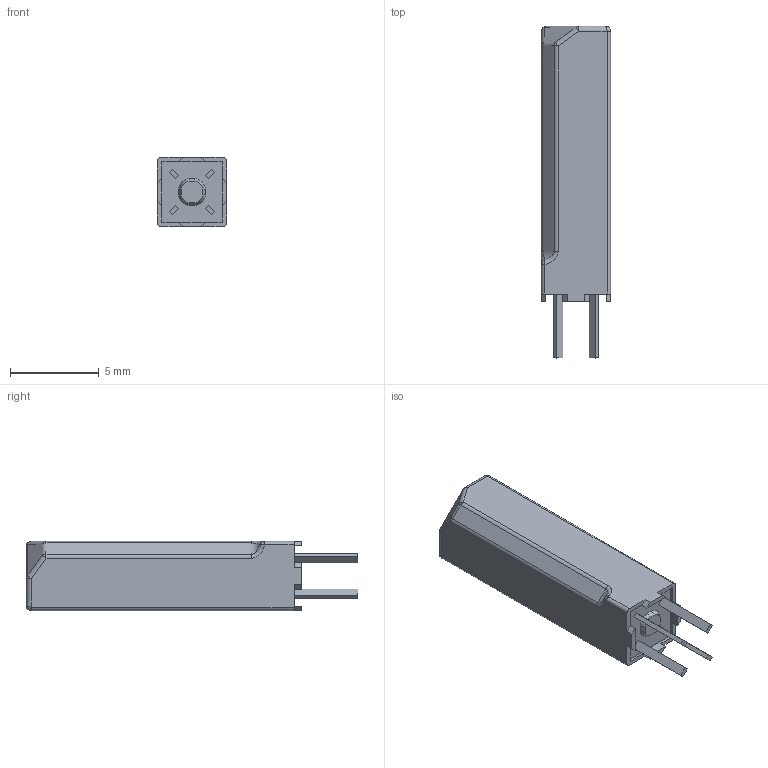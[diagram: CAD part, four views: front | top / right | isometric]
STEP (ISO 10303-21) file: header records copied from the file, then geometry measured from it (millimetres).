
FILE_DESCRIPTION (( 'STEP AP214' ), '1' );
FILE_NAME ('120-1-A-5-1.STEP', '2018-06-11T10:24:15', ( 'admin' ), ( '' ), 'SwSTEP 2.0', 'SolidWorks 2017', '' );
FILE_SCHEMA (( 'AUTOMOTIVE_DESIGN' ));
Length unit declared in the file: millimetre
Products named in the file (1): 120-1-A-5-1
Bounding box: 3.9 x 18.7 x 3.9 mm (x, y, z)
Volume: 224.7 mm3; surface area: 282.9 mm2
Topology: 1 solids, 1 shells, 361 faces, 970 edges, 634 vertices
Faces by surface type: plane 173, bspline 165, cylinder 15, sphere 4, cone 4
Entity records: 21167 total; most frequent: CARTESIAN_POINT 9909, ORIENTED_EDGE 1928, DIRECTION 1058, EDGE_CURVE 964, VERTEX_POINT 634, VECTOR 604, LINE 604, EDGE_LOOP 390
